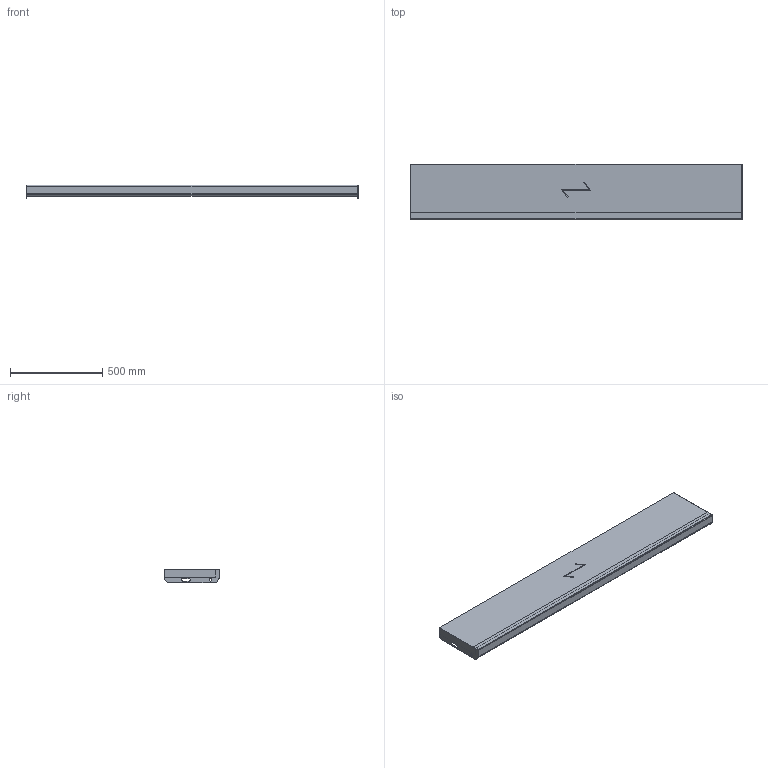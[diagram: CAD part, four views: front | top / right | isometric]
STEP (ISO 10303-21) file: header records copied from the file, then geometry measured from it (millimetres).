
FILE_DESCRIPTION (( 'STEP AP203' ), '1' );
FILE_NAME ('StegTH6-S-nya_steget-1800x300.STEP', '2020-03-04T07:47:33', ( '' ), ( '' ), 'SwSTEP 2.0', 'SolidWorks 2019', '' );
FILE_SCHEMA (( 'CONFIG_CONTROL_DESIGN' ));
Length unit declared in the file: millimetre
Products named in the file (5): SW0000039261; SW0000039014; SW0000039613; SW0000038703; StegTH6-S-nya_steget-1800x300
Assembly tree (5 placements, depth 3):
  StegTH6-S-nya_steget-1800x300
    SW0000039613
      SW0000039014
      SW0000039261
      SW0000038703  x2
Bounding box: 1800 x 300 x 72 mm (x, y, z)
Volume: 20348219.6 mm3; surface area: 1603668 mm2
Topology: 4 solids, 4 shells, 67 faces, 158 edges, 100 vertices
Faces by surface type: plane 51, cylinder 16
Entity records: 2002 total; most frequent: DIRECTION 261, CARTESIAN_POINT 254, ORIENTED_EDGE 238, EDGE_CURVE 119, VECTOR 99, LINE 99, AXIS2_PLACEMENT_3D 81, VERTEX_POINT 74
